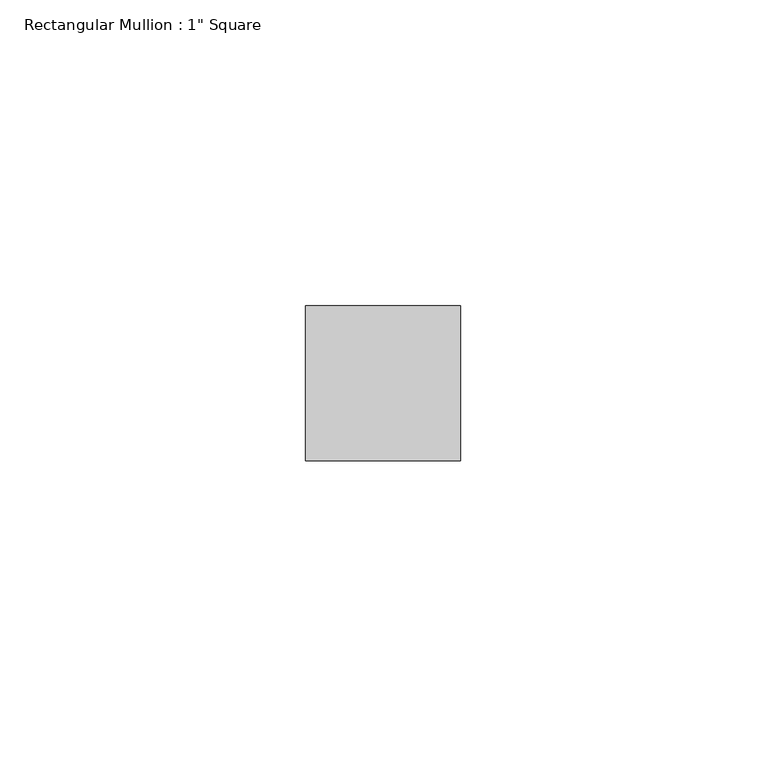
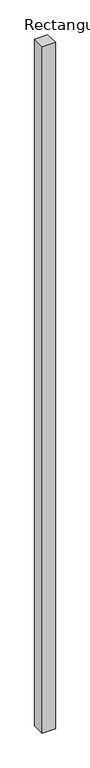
"""IFC4 building model written with IfcOpenShell, lengths in millimetres: member geometry."""

import ifcopenshell
import ifcopenshell.guid

model = None  # the IFC model being written
_history = None  # IfcOwnerHistory: only IFC2X3 demands one
_inside = {}  # id of a spatial element -> (the spatial element, [elements in it])
_under = {}  # id of a project, library or spatial element -> (it, [spatial elements below it])
_declared = {}  # id of a project -> (the project, [libraries it declares])
_typed = {}  # id of a type object -> (the type object, [elements of that type])
_made_of = {}  # id of a material, layer set ... -> (it, [elements and type objects made of it])


def new_model(schema):
    """Start an empty IFC model of exactly this schema.

    Asked for "IFC4X3", IfcOpenShell would pick the latest addendum, in which some entities
    have other attributes; the version numbers below select the first issue.
    IFC2X3 requires an IfcOwnerHistory on every rooted entity: one is made here for all.
    """
    global model, _history
    if schema == "IFC4X3":
        model = ifcopenshell.file(schema_version=(4, 3, 0, 0))
    else:
        model = ifcopenshell.file(schema=schema)
    _inside.clear()
    _under.clear()
    _declared.clear()
    _typed.clear()
    _made_of.clear()
    _history = None
    if model.schema == "IFC2X3":
        org = make("IfcOrganization", Name="unknown")
        user = make(
            "IfcPersonAndOrganization",
            ThePerson=make("IfcPerson", FamilyName="unknown"),
            TheOrganization=org,
        )
        app = make(
            "IfcApplication",
            ApplicationDeveloper=org,
            Version="unknown",
            ApplicationFullName="unknown",
            ApplicationIdentifier="unknown",
        )
        _history = make(
            "IfcOwnerHistory",
            OwningUser=user,
            OwningApplication=app,
            ChangeAction="ADDED",
            CreationDate=0,
        )
    return model


def make(cls, **values):
    """One entity of the class cls with the attributes given. An attribute that is None is left unset."""
    return model.create_entity(
        cls, **{name: value for name, value in values.items() if value is not None}
    )


def rooted(cls, **values):
    """An entity with a GlobalId (a new one), such as an element, a storey or a relation."""
    return make(cls, GlobalId=ifcopenshell.guid.new(), OwnerHistory=_history, **values)


def si_unit(unit_type, name, prefix=None):
    """IfcSIUnit, for example si_unit("LENGTHUNIT", "METRE", prefix="MILLI")."""
    return make("IfcSIUnit", UnitType=unit_type, Prefix=prefix, Name=name)


def assignment(units):
    """IfcUnitAssignment: the units of a project."""
    return None if units is None else make("IfcUnitAssignment", Units=units)


def point(xyz):
    """IfcCartesianPoint."""
    return None if xyz is None else make("IfcCartesianPoint", Coordinates=xyz)


def direction(xyz):
    """IfcDirection."""
    return None if xyz is None else make("IfcDirection", DirectionRatios=xyz)


def frame(location, z_axis=None, x_axis=None):
    """IfcAxis2Placement3D, a coordinate frame: its origin and axes. An axis left out is left unset."""
    return make(
        "IfcAxis2Placement3D",
        Location=point(location),
        Axis=direction(z_axis),
        RefDirection=direction(x_axis),
    )


def origin():
    """The frame at (0, 0, 0) with its axes left unset."""
    return frame((0.0, 0.0, 0.0))


def place(relative_to, where):
    """IfcLocalPlacement: puts the frame where relative to a parent placement (None: the world)."""
    return make(
        "IfcLocalPlacement", PlacementRelTo=relative_to, RelativePlacement=where
    )


def context(
    kind, dimensions, precision=None, world=None, true_north=None, identifier=None
):
    """IfcGeometricRepresentationContext, for example the 3D "Model" context."""
    return make(
        "IfcGeometricRepresentationContext",
        ContextIdentifier=identifier,
        ContextType=kind,
        CoordinateSpaceDimension=dimensions,
        Precision=precision,
        WorldCoordinateSystem=world,
        TrueNorth=true_north,
    )


def project(units=None, contexts=None):
    """IfcProject with its units and contexts."""
    return rooted(
        "IfcProject",
        Name="project",
        RepresentationContexts=contexts,
        UnitsInContext=assignment(units),
    )


def spatial(cls, under=None, at=None, **own):
    """A site, building, storey or space (cls), placed at a placement, below another one or the project."""
    s = rooted(cls, ObjectPlacement=at, **own)
    if under is not None:
        _under.setdefault(under.id(), (under, []))[1].append(s)
    return s


def polyline(points):
    """IfcPolyline through the points."""
    return make("IfcPolyline", Points=[point(p) for p in points])


def outline(outer, holes=None, kind="AREA"):
    """IfcArbitraryClosedProfileDef: a profile drawn as a closed curve; with holes, ...WithVoids."""
    if holes is None:
        return make("IfcArbitraryClosedProfileDef", ProfileType=kind, OuterCurve=outer)
    return make(
        "IfcArbitraryProfileDefWithVoids",
        ProfileType=kind,
        OuterCurve=outer,
        InnerCurves=holes,
    )


def extrude(swept, where, along, depth):
    """IfcExtrudedAreaSolid: the profile swept, set in the frame where, extruded along a direction by depth."""
    return make(
        "IfcExtrudedAreaSolid",
        SweptArea=swept,
        Position=where,
        ExtrudedDirection=direction(along),
        Depth=depth,
    )


def shape(context_of_items, identifier, shape_type, items):
    """IfcShapeRepresentation: the items that make up one representation, for example the "Body"."""
    return make(
        "IfcShapeRepresentation",
        ContextOfItems=context_of_items,
        RepresentationIdentifier=identifier,
        RepresentationType=shape_type,
        Items=items,
    )


def source(mapping_origin, context_of_items, identifier, shape_type, items):
    """IfcRepresentationMap: a shape defined once, which mapped items show again and again."""
    return make(
        "IfcRepresentationMap",
        MappingOrigin=mapping_origin,
        MappedRepresentation=shape(context_of_items, identifier, shape_type, items),
    )


def transform(
    local_origin,
    x_axis=None,
    y_axis=None,
    z_axis=None,
    scale=None,
    scale2=None,
    scale3=None,
    uniform=True,
):
    """IfcCartesianTransformationOperator3D, or its non-uniform kind. x_axis, y_axis, z_axis: its Axis1, 2, 3."""
    if uniform:
        return make(
            "IfcCartesianTransformationOperator3D",
            Axis1=direction(x_axis),
            Axis2=direction(y_axis),
            LocalOrigin=point(local_origin),
            Scale=scale,
            Axis3=direction(z_axis),
        )
    return make(
        "IfcCartesianTransformationOperator3DnonUniform",
        Axis1=direction(x_axis),
        Axis2=direction(y_axis),
        LocalOrigin=point(local_origin),
        Scale=scale,
        Axis3=direction(z_axis),
        Scale2=scale2,
        Scale3=scale3,
    )


def mapped(mapping_source, mapping_target):
    """IfcMappedItem: shows the shape of a source again, moved by a transform."""
    return make(
        "IfcMappedItem", MappingSource=mapping_source, MappingTarget=mapping_target
    )


def made_of(thing, what):
    """Note that an element or type object is made of a material, layer set ...; save() writes the relation."""
    if what is not None:
        _made_of.setdefault(what.id(), (what, []))[1].append(thing)
    return thing


def element(
    cls,
    number,
    at=None,
    inside=None,
    cuts=None,
    type_object=None,
    material=None,
    context=None,
    identifier="Body",
    shape_type=None,
    held_by="IfcProductDefinitionShape",
    body=None,
    shapes=None,
    **own,
):
    """One element of the class cls, such as IfcWall. Its Tag is "e" and its number.

    at: its placement. inside: the storey or other place that contains it. cuts: it is an
    opening in that element (IfcRelVoidsElement). A single representation is given by context,
    identifier, shape_type and body (its items); several are given by shapes. held_by: the class
    of the entity that holds the representations. save() writes the other relations.
    """
    e = rooted(cls, Tag="e%d" % number, ObjectPlacement=at, **own)
    if body is not None:
        shapes = [shape(context, identifier, shape_type, body)]
    if shapes is not None:
        e.Representation = make(held_by, Representations=shapes)
    if inside is not None:
        _inside.setdefault(inside.id(), (inside, []))[1].append(e)
    if cuts is not None:
        rooted(
            "IfcRelVoidsElement", RelatingBuildingElement=cuts, RelatedOpeningElement=e
        )
    if type_object is not None:
        _typed.setdefault(type_object.id(), (type_object, []))[1].append(e)
    return made_of(e, material)


def aggregate(whole, parts):
    """IfcRelAggregates: a whole, such as a stair, and the parts it consists of."""
    return rooted("IfcRelAggregates", RelatingObject=whole, RelatedObjects=parts)


def save(model, path):
    """Write the relations noted so far, then the file.

    IfcRelAggregates (storeys below a building ...), IfcRelContainedInSpatialStructure (elements
    in a storey), IfcRelDefinesByType, IfcRelAssociatesMaterial and IfcRelDeclares: one each for
    every whole, place, type object, material and project.
    """
    for whole, parts in _under.values():
        aggregate(whole, parts)
    for where, things in _inside.values():
        rooted(
            "IfcRelContainedInSpatialStructure",
            RelatedElements=things,
            RelatingStructure=where,
        )
    for kind, things in _typed.values():
        rooted("IfcRelDefinesByType", RelatedObjects=things, RelatingType=kind)
    for what, things in _made_of.values():
        rooted("IfcRelAssociatesMaterial", RelatedObjects=things, RelatingMaterial=what)
    for by, libraries in _declared.values():
        rooted("IfcRelDeclares", RelatingContext=by, RelatedDefinitions=libraries)
    model.write(path)


def member_b8d5ad2c(model_context):
    return source(origin(), model_context, "Body", "SweptSolid", [
        extrude(outline(polyline([(12.7, 12.7), (12.7, -12.7), (-12.7, -12.7), (-12.7, 12.7), (12.7, 12.7)])), frame((0.0, 0.0, -1409.1303691), z_axis=(0.0, 0.0, 1.0), x_axis=(1.0, 0.0, 0.0)), (0.0, 0.0, 1.0), 1409.1303691),
    ])


if __name__ == "__main__":
    model = new_model("IFC4")
    model_context = context("Model", 3, world=origin())
    ifc_project = project(units=[si_unit("LENGTHUNIT", "METRE", prefix="MILLI")], contexts=[model_context])
    site = spatial("IfcSite", under=ifc_project)
    building = spatial("IfcBuilding", under=site)
    placement = place(None, origin())
    member_shape = member_b8d5ad2c(model_context)
    element("IfcMember", 1, ObjectType="Rectangular Mullion : 1\" Square", at=placement, inside=building, context=model_context, shape_type="MappedRepresentation", body=[
        mapped(member_shape, transform((0.0, 0.0, 0.0), x_axis=(1.0, 0.0, 0.0), y_axis=(0.0, 1.0, 0.0), z_axis=(0.0, 0.0, 1.0))),
    ])
    save(model, "model.ifc")
